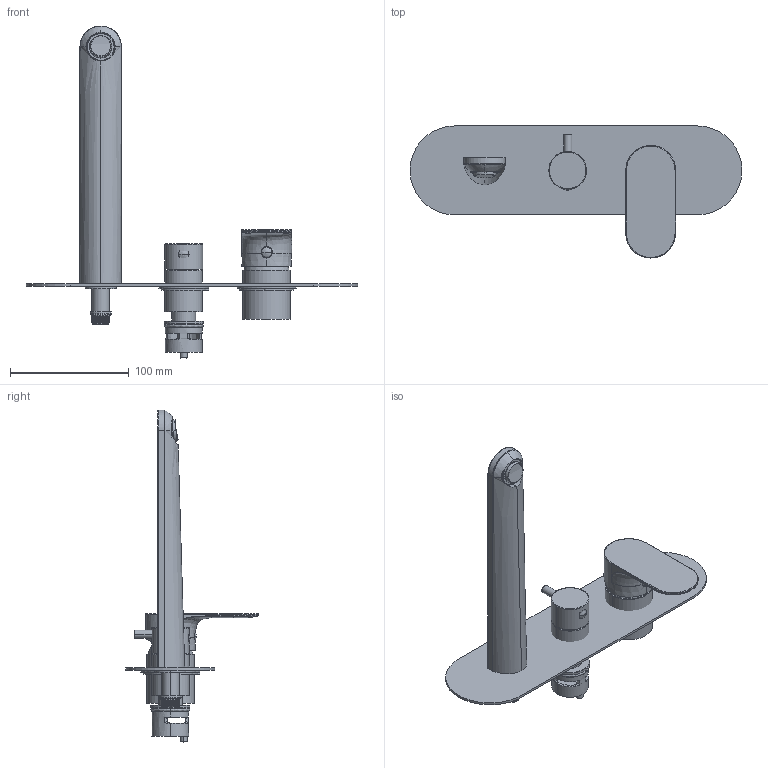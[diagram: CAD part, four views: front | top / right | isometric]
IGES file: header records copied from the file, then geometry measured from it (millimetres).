
Start section:  PTC IGES file: 64518v2_sw0001.igs
Global section: file name: 64518v2_sw0001.igs; native system: Creo Parametric by PTC Inc.; preprocessor: 2022014; author: volponeff; organization: Unknown; date: 20230601.154849; units: millimetre
Bounding box: 280 x 111.5 x 280 mm (x, y, z)
Surface area: 113606.7 mm2 (no closed solid volume)
Topology: 0 solids, 0 shells, 292 faces, 1416 edges, 1412 vertices
Faces by surface type: revolution 176, bspline 114, extrusion 2
